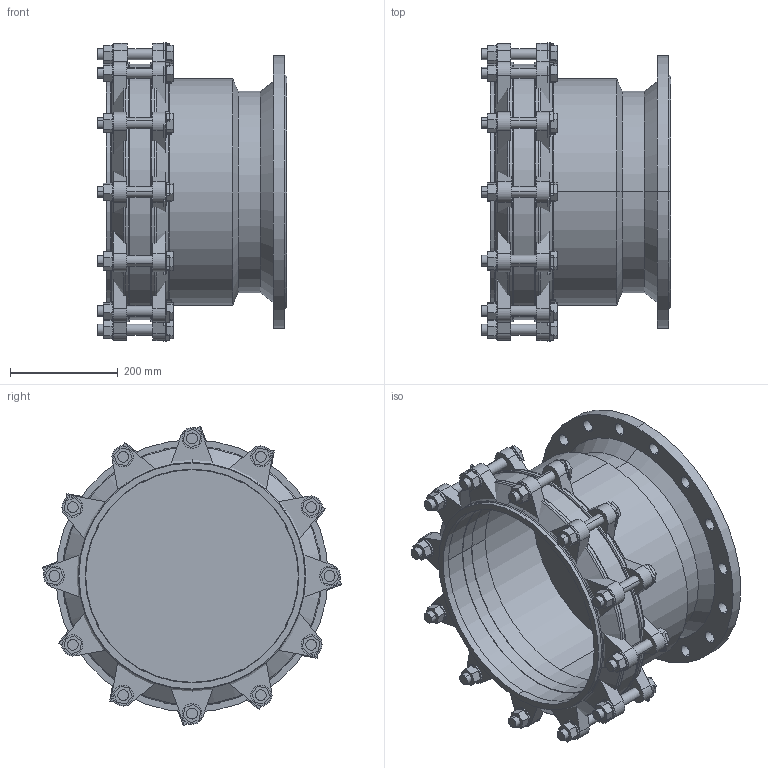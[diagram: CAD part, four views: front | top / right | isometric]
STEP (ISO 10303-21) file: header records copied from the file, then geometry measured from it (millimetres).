
FILE_DESCRIPTION(('STEP AP214'),'1');
FILE_NAME('EM000073 DN 350.STP','2015-01-29T14:15:10',(' '),(' '),'Spatial InterOp 3D',' ',' ');
FILE_SCHEMA(('automotive_design'));
Length unit declared in the file: millimetre
Products named in the file (70): 3D-Objekt; 1; 2; 3; 4; 5; 6; 7; 8; 9; 10; 11; 12; 13; 14; 15; 16; 17; 18; 19; 20; 21; 22; 23; 24
Bounding box: 351 x 553.68 x 553.68 mm (x, y, z)
Volume: 12431856 mm3; surface area: 2557246.6 mm2
Topology: 70 solids, 70 shells, 762 faces, 1756 edges, 1170 vertices
Faces by surface type: plane 536, cylinder 200, cone 14, torus 12
Entity records: 29353 total; most frequent: DIRECTION 3882, CARTESIAN_POINT 3758, ORIENTED_EDGE 3512, EDGE_CURVE 1756, AXIS2_PLACEMENT_3D 1294, LINE 1294, VECTOR 1294, VERTEX_POINT 1170
